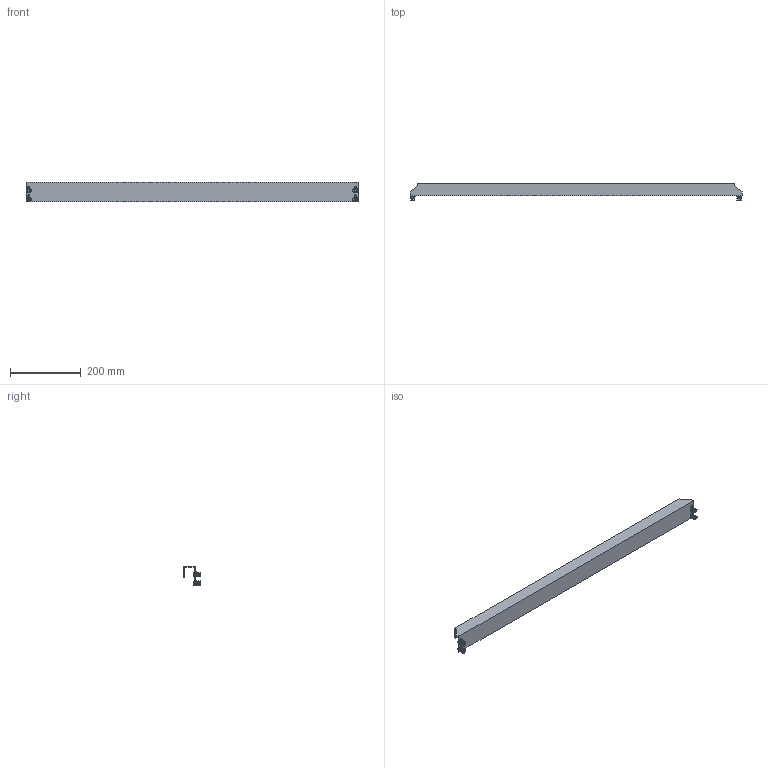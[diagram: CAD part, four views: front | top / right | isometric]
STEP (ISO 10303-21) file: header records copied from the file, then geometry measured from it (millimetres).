
FILE_DESCRIPTION(('Open CASCADE Model'),'2;1');
FILE_NAME('Open CASCADE Shape Model','2025-02-20T14:06:09',('Author'),( 'Open CASCADE'),'Open CASCADE STEP processor 7.8','Open CASCADE 7.8' ,'Unknown');
FILE_SCHEMA(('AUTOMOTIVE_DESIGN { 1 0 10303 214 1 1 1 1 }'));
Length unit declared in the file: millimetre
Products named in the file (4): Compound1; Solid1; Solid2; Solid3
Assembly tree (9 placements, depth 2):
  Compound1
    Solid1
    Solid2  x4
    Solid3  x4
Bounding box: 940 x 50 x 55.58 mm (x, y, z)
Volume: 316098.1 mm3; surface area: 226867.8 mm2
Topology: 13 solids, 13 shells, 926 faces, 2456 edges, 1548 vertices
Faces by surface type: plane 424, cylinder 234, bspline 168, torus 56, cone 40, sphere 4
Full cylindrical faces by diameter (mm): 6 x4, 6.5 x4, 8.3 x4, 12 x4
Entity records: 15310 total; most frequent: CARTESIAN_POINT 5930, ORIENTED_EDGE 2018, DIRECTION 1804, EDGE_CURVE 1009, VERTEX_POINT 651, AXIS2_PLACEMENT_3D 616, LINE 572, VECTOR 572
